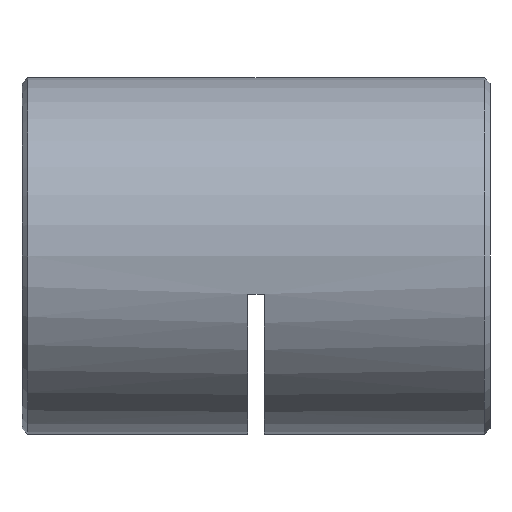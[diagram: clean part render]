
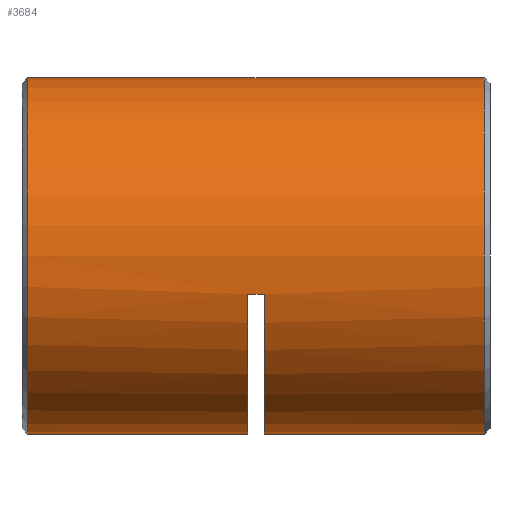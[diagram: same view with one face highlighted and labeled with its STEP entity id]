
A CAD part, left-side view. The second image highlights one B-rep face of the part: STEP entity #3684.
In plain terms, the highlighted cylindrical face has radius 16 mm (diameter 32 mm), a partial arc.
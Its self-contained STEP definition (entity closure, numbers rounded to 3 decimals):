
#64 = DIRECTION ( 'NONE',  ( 0., -1., 0. ) ) ;
#122 = CIRCLE ( 'NONE', #2355, 16. ) ;
#125 = CARTESIAN_POINT ( 'NONE',  ( 0., 20.5, -16. ) ) ;
#253 = DIRECTION ( 'NONE',  ( 0., 1., 0. ) ) ;
#354 = ORIENTED_EDGE ( 'NONE', *, *, #3737, .T. ) ;
#390 = ORIENTED_EDGE ( 'NONE', *, *, #3012, .F. ) ;
#509 = EDGE_CURVE ( 'NONE', #3469, #1987, #5687, .T. ) ;
#516 = CIRCLE ( 'NONE', #1803, 16. ) ;
#708 = ORIENTED_EDGE ( 'NONE', *, *, #4367, .T. ) ;
#737 = CARTESIAN_POINT ( 'NONE',  ( -15.632, 21.25, -3.413 ) ) ;
#802 = VECTOR ( 'NONE', #1943, 1000. ) ;
#811 = ORIENTED_EDGE ( 'NONE', *, *, #3993, .F. ) ;
#1000 = CARTESIAN_POINT ( 'NONE',  ( 0., 20.5, 0. ) ) ;
#1113 = CARTESIAN_POINT ( 'NONE',  ( 0., 41.75, 16. ) ) ;
#1252 = VERTEX_POINT ( 'NONE', #1113 ) ;
#1310 = VERTEX_POINT ( 'NONE', #5179 ) ;
#1330 = CARTESIAN_POINT ( 'NONE',  ( 0., 42.5, 0. ) ) ;
#1436 = CARTESIAN_POINT ( 'NONE',  ( 0., 42.5, 16. ) ) ;
#1450 = EDGE_CURVE ( 'NONE', #2037, #3159, #1739, .T. ) ;
#1676 = VERTEX_POINT ( 'NONE', #125 ) ;
#1677 = DIRECTION ( 'NONE',  ( 0., -1., 0. ) ) ;
#1739 = CIRCLE ( 'NONE', #4660, 16. ) ;
#1760 = EDGE_LOOP ( 'NONE', ( #811, #4567, #354, #390, #3174, #4064, #708, #5476 ) ) ;
#1803 = AXIS2_PLACEMENT_3D ( 'NONE', #1000, #5894, #4405 ) ;
#1833 = CARTESIAN_POINT ( 'NONE',  ( 0., 41.75, 0. ) ) ;
#1859 = DIRECTION ( 'NONE',  ( 0., 0., -1. ) ) ;
#1907 = EDGE_CURVE ( 'NONE', #1987, #1676, #516, .T. ) ;
#1943 = DIRECTION ( 'NONE',  ( 0., -1., 0. ) ) ;
#1946 = LINE ( 'NONE', #3214, #2642 ) ;
#1987 = VERTEX_POINT ( 'NONE', #4831 ) ;
#2019 = CARTESIAN_POINT ( 'NONE',  ( 0., 22., 0. ) ) ;
#2037 = VERTEX_POINT ( 'NONE', #3024 ) ;
#2043 = AXIS2_PLACEMENT_3D ( 'NONE', #1330, #3785, #4692 ) ;
#2092 = VERTEX_POINT ( 'NONE', #4046 ) ;
#2355 = AXIS2_PLACEMENT_3D ( 'NONE', #1833, #4317, #1859 ) ;
#2382 = EDGE_CURVE ( 'NONE', #1252, #1310, #122, .T. ) ;
#2386 = CARTESIAN_POINT ( 'NONE',  ( -15.632, 22., -3.413 ) ) ;
#2440 = CIRCLE ( 'NONE', #5071, 16. ) ;
#2642 = VECTOR ( 'NONE', #3148, 1000. ) ;
#2835 = CARTESIAN_POINT ( 'NONE',  ( 0., 42.5, -16. ) ) ;
#3012 = EDGE_CURVE ( 'NONE', #3469, #2092, #2440, .T. ) ;
#3023 = CARTESIAN_POINT ( 'NONE',  ( 0., 0.75, 16. ) ) ;
#3024 = CARTESIAN_POINT ( 'NONE',  ( 0., 0.75, -16. ) ) ;
#3148 = DIRECTION ( 'NONE',  ( 0., -1., 0. ) ) ;
#3159 = VERTEX_POINT ( 'NONE', #3023 ) ;
#3174 = ORIENTED_EDGE ( 'NONE', *, *, #509, .T. ) ;
#3214 = CARTESIAN_POINT ( 'NONE',  ( 0., 42.5, -16. ) ) ;
#3226 = DIRECTION ( 'NONE',  ( 0., 0., 1. ) ) ;
#3339 = FACE_OUTER_BOUND ( 'NONE', #1760, .T. ) ;
#3469 = VERTEX_POINT ( 'NONE', #2386 ) ;
#3494 = DIRECTION ( 'NONE',  ( 0., 0., -1. ) ) ;
#3505 = DIRECTION ( 'NONE',  ( 0., -1., 0. ) ) ;
#3684 = ADVANCED_FACE ( 'NONE', ( #3339 ), #4555, .T. ) ;
#3737 = EDGE_CURVE ( 'NONE', #1310, #2092, #3957, .T. ) ;
#3785 = DIRECTION ( 'NONE',  ( 0., -1., 0. ) ) ;
#3957 = LINE ( 'NONE', #2835, #5504 ) ;
#3993 = EDGE_CURVE ( 'NONE', #1252, #3159, #5965, .T. ) ;
#4046 = CARTESIAN_POINT ( 'NONE',  ( 0., 22., -16. ) ) ;
#4064 = ORIENTED_EDGE ( 'NONE', *, *, #1907, .T. ) ;
#4317 = DIRECTION ( 'NONE',  ( 0., -1., 0. ) ) ;
#4367 = EDGE_CURVE ( 'NONE', #1676, #2037, #1946, .T. ) ;
#4405 = DIRECTION ( 'NONE',  ( 0., 0., -1. ) ) ;
#4555 = CYLINDRICAL_SURFACE ( 'NONE', #2043, 16. ) ;
#4567 = ORIENTED_EDGE ( 'NONE', *, *, #2382, .T. ) ;
#4660 = AXIS2_PLACEMENT_3D ( 'NONE', #6171, #253, #3226 ) ;
#4692 = DIRECTION ( 'NONE',  ( 0., 0., -1. ) ) ;
#4735 = VECTOR ( 'NONE', #1677, 1000. ) ;
#4831 = CARTESIAN_POINT ( 'NONE',  ( -15.632, 20.5, -3.413 ) ) ;
#5071 = AXIS2_PLACEMENT_3D ( 'NONE', #2019, #64, #3494 ) ;
#5179 = CARTESIAN_POINT ( 'NONE',  ( 0., 41.75, -16. ) ) ;
#5476 = ORIENTED_EDGE ( 'NONE', *, *, #1450, .T. ) ;
#5504 = VECTOR ( 'NONE', #3505, 1000. ) ;
#5687 = LINE ( 'NONE', #737, #4735 ) ;
#5894 = DIRECTION ( 'NONE',  ( 0., -1., 0. ) ) ;
#5965 = LINE ( 'NONE', #1436, #802 ) ;
#6171 = CARTESIAN_POINT ( 'NONE',  ( 0., 0.75, 0. ) ) ;
